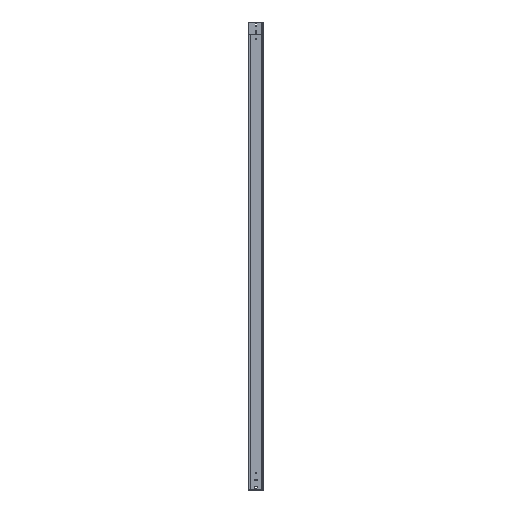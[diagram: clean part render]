
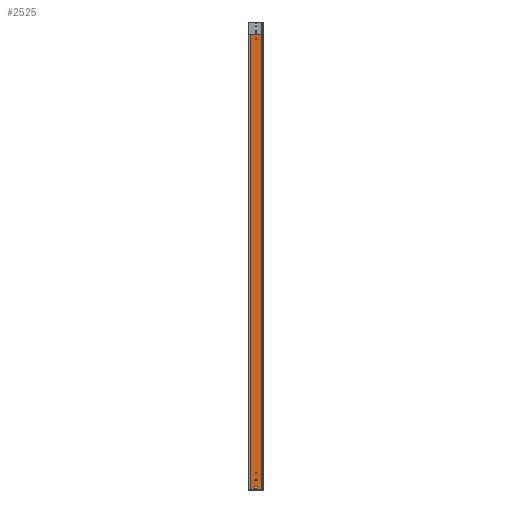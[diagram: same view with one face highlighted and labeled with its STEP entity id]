
A CAD part, left-side view. The second image highlights one B-rep face of the part: STEP entity #2525.
In plain terms, the highlighted planar face has unit normal (-1, 0, 0).
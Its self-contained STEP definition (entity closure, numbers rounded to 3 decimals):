
#5 = ORIENTED_EDGE ( 'NONE', *, *, #270, .F. ) ;
#16 = ORIENTED_EDGE ( 'NONE', *, *, #4776, .F. ) ;
#22 = EDGE_CURVE ( 'NONE', #3247, #1885, #2880, .T. ) ;
#81 = CARTESIAN_POINT ( 'NONE',  ( 0., 43., 2903. ) ) ;
#125 = EDGE_CURVE ( 'NONE', #7273, #5804, #7779, .T. ) ;
#190 = CARTESIAN_POINT ( 'NONE',  ( 0., 0.5, 0. ) ) ;
#231 = CIRCLE ( 'NONE', #6240, 4.5 ) ;
#249 = ORIENTED_EDGE ( 'NONE', *, *, #3718, .F. ) ;
#270 = EDGE_CURVE ( 'NONE', #3363, #3247, #2813, .T. ) ;
#447 = CARTESIAN_POINT ( 'NONE',  ( 0., 48.5, 2805.5 ) ) ;
#456 = LINE ( 'NONE', #2883, #6687 ) ;
#496 = CARTESIAN_POINT ( 'NONE',  ( 0., 85.166, 0. ) ) ;
#521 = PLANE ( 'NONE',  #6045 ) ;
#522 = CARTESIAN_POINT ( 'NONE',  ( 0., 54., 2852.5 ) ) ;
#544 = EDGE_CURVE ( 'NONE', #2391, #5475, #6509, .T. ) ;
#582 = VERTEX_POINT ( 'NONE', #1849 ) ;
#971 = CARTESIAN_POINT ( 'NONE',  ( 0., 43., 2898.5 ) ) ;
#979 = ORIENTED_EDGE ( 'NONE', *, *, #1731, .F. ) ;
#1050 = CIRCLE ( 'NONE', #1809, 4.5 ) ;
#1076 = EDGE_CURVE ( 'NONE', #2363, #3363, #4876, .T. ) ;
#1212 = CARTESIAN_POINT ( 'NONE',  ( 0., 54., 2903. ) ) ;
#1259 = DIRECTION ( 'NONE',  ( 0., 0., 1. ) ) ;
#1294 = VECTOR ( 'NONE', #1815, 1000. ) ;
#1351 = CARTESIAN_POINT ( 'NONE',  ( 0., 0.5, 0. ) ) ;
#1379 = AXIS2_PLACEMENT_3D ( 'NONE', #81, #4321, #2425 ) ;
#1412 = CARTESIAN_POINT ( 'NONE',  ( 0., 54., 2898.5 ) ) ;
#1414 = AXIS2_PLACEMENT_3D ( 'NONE', #4444, #7420, #1915 ) ;
#1419 = CIRCLE ( 'NONE', #2693, 4.5 ) ;
#1506 = VECTOR ( 'NONE', #6617, 1000. ) ;
#1731 = EDGE_CURVE ( 'NONE', #582, #4682, #1419, .T. ) ;
#1735 = CARTESIAN_POINT ( 'NONE',  ( 0., 48.5, 2810. ) ) ;
#1752 = EDGE_CURVE ( 'NONE', #4186, #2050, #7837, .T. ) ;
#1809 = AXIS2_PLACEMENT_3D ( 'NONE', #1212, #3602, #3563 ) ;
#1815 = DIRECTION ( 'NONE',  ( 0., -1., 0. ) ) ;
#1849 = CARTESIAN_POINT ( 'NONE',  ( 0., 48.5, 2814.5 ) ) ;
#1885 = VERTEX_POINT ( 'NONE', #4459 ) ;
#1915 = DIRECTION ( 'NONE',  ( 0., 0., 1. ) ) ;
#2050 = VERTEX_POINT ( 'NONE', #971 ) ;
#2155 = ORIENTED_EDGE ( 'NONE', *, *, #1752, .F. ) ;
#2191 = EDGE_CURVE ( 'NONE', #6771, #7273, #456, .T. ) ;
#2198 = EDGE_CURVE ( 'NONE', #4050, #4186, #1050, .T. ) ;
#2214 = CARTESIAN_POINT ( 'NONE',  ( 0., 54., 2861.5 ) ) ;
#2308 = DIRECTION ( 'NONE',  ( 0., 0., 1. ) ) ;
#2351 = FACE_OUTER_BOUND ( 'NONE', #4705, .T. ) ;
#2363 = VERTEX_POINT ( 'NONE', #3685 ) ;
#2391 = VERTEX_POINT ( 'NONE', #5537 ) ;
#2425 = DIRECTION ( 'NONE',  ( 0., 0., 1. ) ) ;
#2525 = ADVANCED_FACE ( 'NONE', ( #4607, #7050, #5294, #6934, #2351 ), #521, .T. ) ;
#2600 = VECTOR ( 'NONE', #4665, 1000. ) ;
#2614 = CARTESIAN_POINT ( 'NONE',  ( 0., 7.555, 0. ) ) ;
#2654 = DIRECTION ( 'NONE',  ( 0., 0., -1. ) ) ;
#2693 = AXIS2_PLACEMENT_3D ( 'NONE', #1735, #5431, #1259 ) ;
#2712 = CARTESIAN_POINT ( 'NONE',  ( 0., 54., 2907.5 ) ) ;
#2735 = CARTESIAN_POINT ( 'NONE',  ( 0., 85.166, 0. ) ) ;
#2813 = LINE ( 'NONE', #2214, #2600 ) ;
#2874 = DIRECTION ( 'NONE',  ( -1., 0., 0. ) ) ;
#2880 = CIRCLE ( 'NONE', #7374, 4.5 ) ;
#2883 = CARTESIAN_POINT ( 'NONE',  ( 0., 0.5, 2920. ) ) ;
#2904 = CARTESIAN_POINT ( 'NONE',  ( 0., 0., 2920. ) ) ;
#2951 = CARTESIAN_POINT ( 'NONE',  ( 0., 48.5, 2810. ) ) ;
#3020 = LINE ( 'NONE', #2904, #4091 ) ;
#3022 = CARTESIAN_POINT ( 'NONE',  ( 0., 0.5, 2920. ) ) ;
#3096 = EDGE_LOOP ( 'NONE', ( #979, #5740 ) ) ;
#3173 = CARTESIAN_POINT ( 'NONE',  ( 0., 54., 2907.5 ) ) ;
#3185 = ORIENTED_EDGE ( 'NONE', *, *, #4824, .F. ) ;
#3247 = VERTEX_POINT ( 'NONE', #6401 ) ;
#3250 = DIRECTION ( 'NONE',  ( 0., 0., 1. ) ) ;
#3254 = CARTESIAN_POINT ( 'NONE',  ( 0., 48.5, 34.5 ) ) ;
#3304 = EDGE_LOOP ( 'NONE', ( #6196, #5, #3789, #16 ) ) ;
#3315 = EDGE_CURVE ( 'NONE', #6828, #5804, #7083, .T. ) ;
#3334 = CARTESIAN_POINT ( 'NONE',  ( 0., 64., 0. ) ) ;
#3363 = VERTEX_POINT ( 'NONE', #3627 ) ;
#3371 = EDGE_CURVE ( 'NONE', #6771, #6828, #3020, .T. ) ;
#3563 = DIRECTION ( 'NONE',  ( 0., 0., -1. ) ) ;
#3602 = DIRECTION ( 'NONE',  ( -1., 0., 0. ) ) ;
#3627 = CARTESIAN_POINT ( 'NONE',  ( 0., 43., 2861.5 ) ) ;
#3685 = CARTESIAN_POINT ( 'NONE',  ( 0., 43., 2852.5 ) ) ;
#3718 = EDGE_CURVE ( 'NONE', #5475, #2391, #6870, .T. ) ;
#3729 = EDGE_LOOP ( 'NONE', ( #7357, #5873, #3185, #2155 ) ) ;
#3789 = ORIENTED_EDGE ( 'NONE', *, *, #1076, .F. ) ;
#3909 = CARTESIAN_POINT ( 'NONE',  ( 0., 85.166, 2920. ) ) ;
#3979 = CARTESIAN_POINT ( 'NONE',  ( 0., 48.5, 30. ) ) ;
#3993 = LINE ( 'NONE', #2712, #7890 ) ;
#4037 = LINE ( 'NONE', #522, #1506 ) ;
#4050 = VERTEX_POINT ( 'NONE', #3173 ) ;
#4065 = AXIS2_PLACEMENT_3D ( 'NONE', #4990, #5065, #3250 ) ;
#4091 = VECTOR ( 'NONE', #7278, 1000. ) ;
#4186 = VERTEX_POINT ( 'NONE', #1412 ) ;
#4233 = CARTESIAN_POINT ( 'NONE',  ( 0., 85.166, 2920. ) ) ;
#4258 = ORIENTED_EDGE ( 'NONE', *, *, #544, .F. ) ;
#4321 = DIRECTION ( 'NONE',  ( -1., 0., 0. ) ) ;
#4347 = CARTESIAN_POINT ( 'NONE',  ( 0., 54., 2857. ) ) ;
#4444 = CARTESIAN_POINT ( 'NONE',  ( 0., 43., 2857. ) ) ;
#4459 = CARTESIAN_POINT ( 'NONE',  ( 0., 54., 2852.5 ) ) ;
#4607 = FACE_BOUND ( 'NONE', #6541, .T. ) ;
#4654 = EDGE_CURVE ( 'NONE', #4682, #582, #231, .T. ) ;
#4665 = DIRECTION ( 'NONE',  ( 0., 1., 0. ) ) ;
#4682 = VERTEX_POINT ( 'NONE', #447 ) ;
#4705 = EDGE_LOOP ( 'NONE', ( #5761, #6633, #7274, #5902 ) ) ;
#4770 = DIRECTION ( 'NONE',  ( -1., 0., 0. ) ) ;
#4776 = EDGE_CURVE ( 'NONE', #1885, #2363, #4037, .T. ) ;
#4824 = EDGE_CURVE ( 'NONE', #2050, #7830, #6760, .T. ) ;
#4876 = CIRCLE ( 'NONE', #1414, 4.5 ) ;
#4990 = CARTESIAN_POINT ( 'NONE',  ( 0., 48.5, 30. ) ) ;
#5003 = VECTOR ( 'NONE', #6365, 1000. ) ;
#5065 = DIRECTION ( 'NONE',  ( -1., 0., 0. ) ) ;
#5074 = CARTESIAN_POINT ( 'NONE',  ( 0., 21.666, 0. ) ) ;
#5111 = DIRECTION ( 'NONE',  ( -1., 0., 0. ) ) ;
#5294 = FACE_BOUND ( 'NONE', #3304, .T. ) ;
#5338 = DIRECTION ( 'NONE',  ( 0., 0., -1. ) ) ;
#5431 = DIRECTION ( 'NONE',  ( -1., 0., 0. ) ) ;
#5445 = DIRECTION ( 'NONE',  ( 0., 0., 1. ) ) ;
#5475 = VERTEX_POINT ( 'NONE', #3254 ) ;
#5537 = CARTESIAN_POINT ( 'NONE',  ( 0., 48.5, 25.5 ) ) ;
#5632 = CARTESIAN_POINT ( 'NONE',  ( 0., 43., 2907.5 ) ) ;
#5740 = ORIENTED_EDGE ( 'NONE', *, *, #4654, .F. ) ;
#5761 = ORIENTED_EDGE ( 'NONE', *, *, #125, .F. ) ;
#5804 = VERTEX_POINT ( 'NONE', #496 ) ;
#5873 = ORIENTED_EDGE ( 'NONE', *, *, #6523, .F. ) ;
#5902 = ORIENTED_EDGE ( 'NONE', *, *, #3315, .T. ) ;
#5930 = CARTESIAN_POINT ( 'NONE',  ( 0., 0., 2920. ) ) ;
#6045 = AXIS2_PLACEMENT_3D ( 'NONE', #5930, #4770, #5445 ) ;
#6196 = ORIENTED_EDGE ( 'NONE', *, *, #22, .F. ) ;
#6240 = AXIS2_PLACEMENT_3D ( 'NONE', #2951, #2874, #2308 ) ;
#6365 = DIRECTION ( 'NONE',  ( 0., 0., -1. ) ) ;
#6392 = CARTESIAN_POINT ( 'NONE',  ( 0., 42.832, 0. ) ) ;
#6394 = DIRECTION ( 'NONE',  ( 0., 0., 1. ) ) ;
#6401 = CARTESIAN_POINT ( 'NONE',  ( 0., 54., 2861.5 ) ) ;
#6448 = DIRECTION ( 'NONE',  ( 0., 1., 0. ) ) ;
#6509 = CIRCLE ( 'NONE', #4065, 4.5 ) ;
#6523 = EDGE_CURVE ( 'NONE', #7830, #4050, #3993, .T. ) ;
#6541 = EDGE_LOOP ( 'NONE', ( #4258, #249 ) ) ;
#6617 = DIRECTION ( 'NONE',  ( 0., -1., 0. ) ) ;
#6633 = ORIENTED_EDGE ( 'NONE', *, *, #2191, .F. ) ;
#6687 = VECTOR ( 'NONE', #5338, 1000. ) ;
#6760 = CIRCLE ( 'NONE', #1379, 4.5 ) ;
#6771 = VERTEX_POINT ( 'NONE', #3022 ) ;
#6828 = VERTEX_POINT ( 'NONE', #4233 ) ;
#6870 = CIRCLE ( 'NONE', #7001, 4.5 ) ;
#6934 = FACE_BOUND ( 'NONE', #3729, .T. ) ;
#7001 = AXIS2_PLACEMENT_3D ( 'NONE', #3979, #7605, #6394 ) ;
#7050 = FACE_BOUND ( 'NONE', #3096, .T. ) ;
#7083 = LINE ( 'NONE', #3909, #5003 ) ;
#7148 = CARTESIAN_POINT ( 'NONE',  ( 0., 78.111, 0. ) ) ;
#7273 = VERTEX_POINT ( 'NONE', #1351 ) ;
#7274 = ORIENTED_EDGE ( 'NONE', *, *, #3371, .T. ) ;
#7278 = DIRECTION ( 'NONE',  ( 0., 1., 0. ) ) ;
#7353 = CARTESIAN_POINT ( 'NONE',  ( 0., 54., 2898.5 ) ) ;
#7357 = ORIENTED_EDGE ( 'NONE', *, *, #2198, .F. ) ;
#7374 = AXIS2_PLACEMENT_3D ( 'NONE', #4347, #5111, #2654 ) ;
#7420 = DIRECTION ( 'NONE',  ( -1., 0., 0. ) ) ;
#7605 = DIRECTION ( 'NONE',  ( -1., 0., 0. ) ) ;
#7779 = B_SPLINE_CURVE_WITH_KNOTS ( 'NONE', 3,
 ( #190, #2614, #5074, #6392, #3334, #7148, #2735 ),
 .UNSPECIFIED., .F., .F.,
 ( 4, 1, 1, 1, 4 ),
 ( 0., 0.25, 0.5, 0.75, 1. ),
 .UNSPECIFIED. ) ;
#7830 = VERTEX_POINT ( 'NONE', #5632 ) ;
#7837 = LINE ( 'NONE', #7353, #1294 ) ;
#7890 = VECTOR ( 'NONE', #6448, 1000. ) ;
